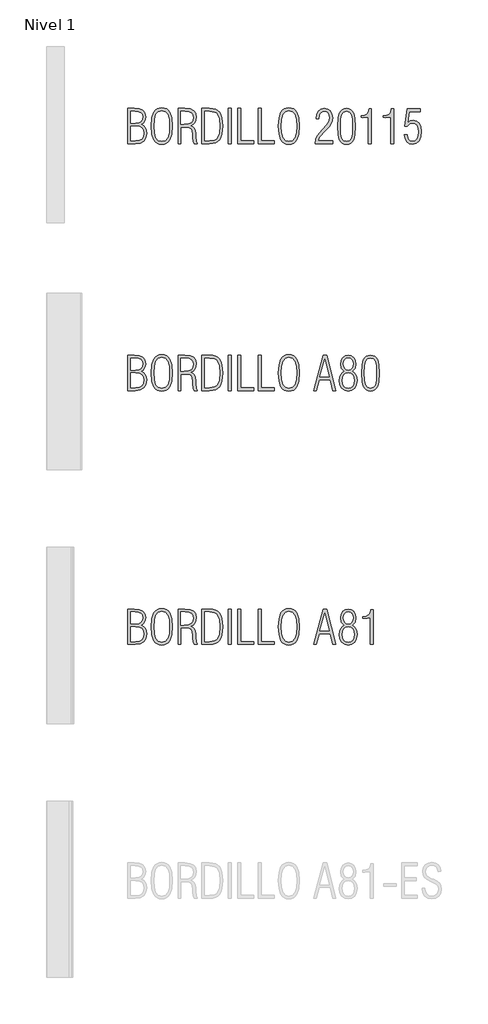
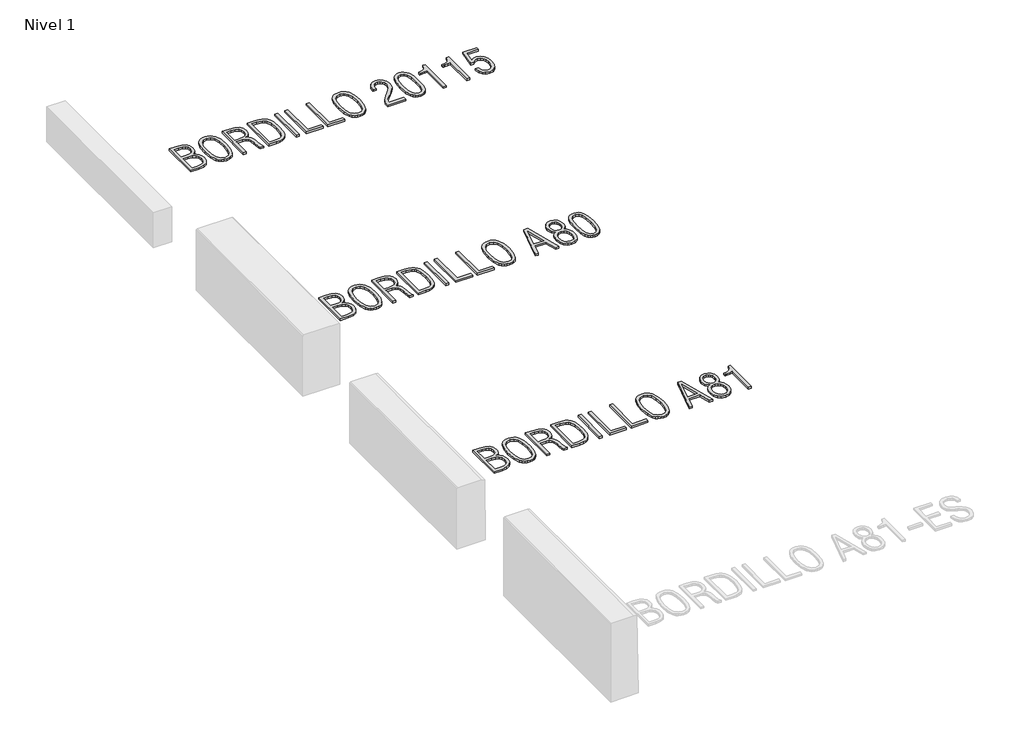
# One storey, part 2 of 2: 3 proxies.
"""IFC4 building model written with IfcOpenShell, lengths in millimetres."""

from ifc_helpers import new_model, si_unit, origin, origin_with_axes, place, context, project, spatial, polyline, outline, extrude, element, save

model = new_model("IFC4")

# Units and contexts
model_context = context("Model", 3, world=origin())
ifc_project = project(units=[si_unit("LENGTHUNIT", "METRE", prefix="MILLI")], contexts=[model_context])

# Site, building, storey
site = spatial("IfcSite", under=ifc_project)
building = spatial("IfcBuilding", under=site)
storey = spatial("IfcBuildingStorey", under=building, Name="Nivel 1", Elevation=0.0)

# Proxies
placement = place(None, origin())
element("IfcBuildingElementProxy", 1, Name="200mm", ObjectType="200mm", at=placement, inside=storey, context=model_context, shape_type="SweptSolid", body=[
    extrude(outline(polyline([(-2302.7763693, 6345.0152287), (-2302.7763693, 6545.5078512), (-2266.9524607, 6545.5078512), (-2237.2360485, 6542.7351616), (-2217.4103698, 6534.4170925), (-2206.250136, 6519.833629), (-2202.530058, 6498.264756), (-2204.1153544, 6482.992857), (-2208.8712435, 6470.7273368), (-2216.8861483, 6461.2660859), (-2228.2484917, 6454.4069948), (-2213.8355581, 6446.2026123), (-2203.8437698, 6435.5350204), (-2198.007858, 6421.9368407), (-2196.0625541, 6404.940695), (-2199.9721097, 6378.3127686), (-2211.7007765, 6359.6681674), (-2231.6022462, 6348.6784634), (-2260.0302103, 6345.0152287), (-2302.7763693, 6345.0152287)]), holes=[polyline([(-2286.6076094, 6361.1839886), (-2262.2028874, 6361.1839886), (-2239.2192479, 6363.741937), (-2223.8273464, 6371.415782), (-2215.1303221, 6384.9255388), (-2212.2313139, 6404.9912224), (-2215.1808494, 6422.9726519), (-2224.0294559, 6435.484493), (-2239.130825, 6442.8172782), (-2260.8386483, 6445.26154), (-2286.6076094, 6445.26154), (-2286.6076094, 6361.1839886)]), polyline([(-2286.6076094, 6461.4302999), (-2261.6470863, 6461.4302999), (-2242.2256267, 6463.5650814), (-2228.9306113, 6469.9694262), (-2221.2567662, 6481.0349212), (-2218.6988179, 6497.1531537), (-2221.2567662, 6512.1345203), (-2228.9306113, 6522.012622), (-2242.8698507, 6527.507474), (-2264.2239824, 6529.3390914), (-2286.6076094, 6529.3390914), (-2286.6076094, 6461.4302999)])]), origin_with_axes(), (0.0, 0.0, 1.0), 10.0),
    extrude(outline(polyline([(-2170.1925383, 6445.4636495), (-2166.573515, 6491.6898813), (-2155.7164454, 6523.7558165), (-2147.4567987, 6534.6870982), (-2137.1539512, 6542.4951565), (-2124.807903, 6547.1799915), (-2110.4186541, 6548.7416032), (-2095.9851937, 6547.1847285), (-2083.6075659, 6542.5141043), (-2073.2857707, 6534.7297306), (-2065.019808, 6523.8316075), (-2054.1627384, 6491.7846202), (-2050.5437152, 6445.4636495), (-2054.1816861, 6399.0921514), (-2065.095599, 6366.893582), (-2073.3852464, 6355.9070359), (-2083.7023047, 6348.0595031), (-2096.046774, 6343.3509833), (-2110.4186541, 6341.7814768), (-2124.7463227, 6343.3509833), (-2137.0592123, 6348.0595031), (-2147.3573229, 6355.9070359), (-2155.6406544, 6366.893582), (-2166.5545673, 6399.0921514), (-2170.1925383, 6445.4636495)]), holes=[polyline([(-2154.0237784, 6445.26154), (-2151.3521434, 6406.4944118), (-2143.3372386, 6379.3233161), (-2129.7390589, 6363.2935065), (-2110.3175993, 6357.9502366), (-2090.8771919, 6363.2619269), (-2077.3232237, 6379.1969977), (-2069.3651622, 6406.3365138), (-2066.712475, 6445.26154), (-2069.3651622, 6484.1865662), (-2077.3232237, 6511.3260823), (-2090.8771919, 6527.2611531), (-2110.3175993, 6532.5728433), (-2129.7390589, 6527.2295735), (-2143.3372386, 6511.1997639), (-2151.3521434, 6484.0286682), (-2154.0237784, 6445.26154)])]), origin_with_axes(), (0.0, 0.0, 1.0), 10.0),
    extrude(outline(polyline([(-2018.2061954, 6345.0152287), (-2018.2061954, 6545.5078512), (-1979.1485348, 6545.5078512), (-1950.2847721, 6542.5014724), (-1930.2885636, 6533.4823361), (-1918.61674, 6518.1093823), (-1914.7261322, 6496.0415515), (-1916.595645, 6478.8243486), (-1922.2041836, 6465.1693256), (-1931.6906982, 6454.8364775), (-1945.1941391, 6447.5857992), (-1933.402313, 6442.1983179), (-1925.4126719, 6434.0191991), (-1920.5052006, 6421.4568306), (-1917.9598842, 6402.9196001), (-1917.2019735, 6385.1339642), (-1914.4103361, 6359.1628936), (-1908.2586282, 6345.0152287), (-1926.8527021, 6345.0152287), (-1931.1222652, 6357.1544305), (-1933.4212608, 6381.9507396), (-1934.128644, 6395.2899665), (-1937.0023885, 6417.6230661), (-1942.8951435, 6430.558074), (-1953.2974668, 6436.7350455), (-1969.6999158, 6438.794036), (-2002.0374355, 6438.794036), (-2002.0374355, 6345.0152287), (-2018.2061954, 6345.0152287)]), holes=[polyline([(-2002.0374355, 6454.9627959), (-1984.4033818, 6454.9627959), (-1959.5565453, 6457.21758), (-1943.1225167, 6463.9819323), (-1933.9517982, 6475.9127086), (-1930.8948921, 6493.6667649), (-1933.8002161, 6509.7786815), (-1942.5161882, 6520.8252287), (-1957.6112414, 6527.2106257), (-1979.6538086, 6529.3390914), (-2002.0374355, 6529.3390914), (-2002.0374355, 6454.9627959)])]), origin_with_axes(), (0.0, 0.0, 1.0), 10.0),
    extrude(outline(polyline([(-1882.3886124, 6345.0152287), (-1882.3886124, 6545.5078512), (-1840.6024736, 6545.5078512), (-1821.5615483, 6544.1120325), (-1805.5680552, 6539.9245763), (-1792.6219945, 6532.9454827), (-1782.723366, 6523.1747517), (-1775.3953177, 6509.9397375), (-1770.1609975, 6492.5677945), (-1765.9735413, 6445.4131221), (-1770.1799452, 6398.2837134), (-1775.4379502, 6380.867559), (-1782.799157, 6367.5504378), (-1792.7214702, 6357.6912839), (-1805.6627941, 6350.649031), (-1821.6231285, 6346.4236793), (-1840.6024736, 6345.0152287), (-1882.3886124, 6345.0152287)]), holes=[polyline([(-1866.2198525, 6361.1839886), (-1841.7140758, 6361.1839886), (-1812.8882086, 6365.5103951), (-1802.5111491, 6370.9184031), (-1794.8246722, 6378.4896144), (-1785.3128939, 6403.7722495), (-1782.1423012, 6445.0089031), (-1785.3128939, 6486.5613528), (-1794.8246722, 6511.9829382), (-1802.5111491, 6519.5762552), (-1812.8882086, 6525.0000531), (-1841.7140758, 6529.3390914), (-1866.2198525, 6529.3390914), (-1866.2198525, 6361.1839886)])]), origin_with_axes(), (0.0, 0.0, 1.0), 10.0),
    extrude(outline(polyline([(-1733.6360215, 6345.0152287), (-1733.6360215, 6545.5078512), (-1717.4672617, 6545.5078512), (-1717.4672617, 6345.0152287), (-1733.6360215, 6345.0152287)])), origin_with_axes(), (0.0, 0.0, 1.0), 10.0),
    extrude(outline(polyline([(-1678.6622379, 6345.0152287), (-1678.6622379, 6545.5078512), (-1662.4934781, 6545.5078512), (-1662.4934781, 6361.1839886), (-1588.1171826, 6361.1839886), (-1588.1171826, 6345.0152287), (-1678.6622379, 6345.0152287)])), origin_with_axes(), (0.0, 0.0, 1.0), 10.0),
    extrude(outline(polyline([(-1562.2471668, 6345.0152287), (-1562.2471668, 6545.5078512), (-1546.0784069, 6545.5078512), (-1546.0784069, 6361.1839886), (-1471.7021115, 6361.1839886), (-1471.7021115, 6345.0152287), (-1562.2471668, 6345.0152287)])), origin_with_axes(), (0.0, 0.0, 1.0), 10.0),
    extrude(outline(polyline([(-1449.0658477, 6445.4636495), (-1445.4468245, 6491.6898813), (-1434.5897548, 6523.7558165), (-1426.3301081, 6534.6870982), (-1416.0272606, 6542.4951565), (-1403.6812124, 6547.1799915), (-1389.2919635, 6548.7416032), (-1374.8585031, 6547.1847285), (-1362.4808753, 6542.5141043), (-1352.1590801, 6534.7297306), (-1343.8931174, 6523.8316075), (-1333.0360478, 6491.7846202), (-1329.4170246, 6445.4636495), (-1333.0549955, 6399.0921514), (-1343.9689085, 6366.893582), (-1352.2585559, 6355.9070359), (-1362.5756142, 6348.0595031), (-1374.9200834, 6343.3509833), (-1389.2919635, 6341.7814768), (-1403.6196322, 6343.3509833), (-1415.9325218, 6348.0595031), (-1426.2306323, 6355.9070359), (-1434.5139638, 6366.893582), (-1445.4278767, 6399.0921514), (-1449.0658477, 6445.4636495)]), holes=[polyline([(-1432.8970878, 6445.26154), (-1430.2254529, 6406.4944118), (-1422.2105481, 6379.3233161), (-1408.6123684, 6363.2935065), (-1389.1909087, 6357.9502366), (-1369.7505014, 6363.2619269), (-1356.1965331, 6379.1969977), (-1348.2384716, 6406.3365138), (-1345.5857845, 6445.26154), (-1348.2384716, 6484.1865662), (-1356.1965331, 6511.3260823), (-1369.7505014, 6527.2611531), (-1389.1909087, 6532.5728433), (-1408.6123684, 6527.2295735), (-1422.2105481, 6511.1997639), (-1430.2254529, 6484.0286682), (-1432.8970878, 6445.26154)])]), origin_with_axes(), (0.0, 0.0, 1.0), 10.0),
    extrude(outline(polyline([(-1238.8719693, 6345.0152287), (-1236.3708642, 6369.6473239), (-1229.2212407, 6389.8835374), (-1199.5111444, 6423.9389879), (-1196.3279198, 6427.1727399), (-1194.6099891, 6428.8906706), (-1167.1736247, 6462.7692753), (-1160.3145336, 6478.3253908), (-1158.0281699, 6492.9593816), (-1160.0113693, 6507.9912756), (-1165.9609677, 6519.5367807), (-1175.2580046, 6526.8885137), (-1187.2835198, 6529.3390914), (-1201.1406523, 6526.7179838), (-1211.0819132, 6518.8546611), (-1217.1704619, 6505.7238596), (-1219.4694574, 6487.3003157), (-1235.6382173, 6487.1487335), (-1235.6382173, 6490.1298487), (-1232.5497315, 6513.12612), (-1223.2842742, 6530.6780668), (-1208.6881788, 6541.8004051), (-1189.607779, 6545.5078512), (-1169.8073641, 6541.9330395), (-1154.6680994, 6531.2086042), (-1145.0615824, 6514.3324611), (-1141.85941, 6492.3025258), (-1143.3752312, 6474.9969), (-1147.8216402, 6459.9144786), (-1158.3818615, 6443.6825595), (-1176.6222437, 6424.7979533), (-1181.8265633, 6419.8462706), (-1214.7198842, 6384.5528994), (-1220.631587, 6372.710546), (-1222.7032094, 6361.1839886), (-1141.3541362, 6361.1839886), (-1141.3541362, 6345.0152287), (-1238.8719693, 6345.0152287)])), origin_with_axes(), (0.0, 0.0, 1.0), 10.0),
    extrude(outline(polyline([(-1112.7556422, 6443.8467735), (-1110.507174, 6491.6204062), (-1103.5091326, 6518.7788701), (-1095.8731832, 6530.4254299), (-1086.5066711, 6538.7877104), (-1075.4222283, 6543.827816), (-1062.6324866, 6545.5078512), (-1049.8427449, 6543.8151842), (-1038.7583021, 6538.737183), (-1029.4549492, 6530.3622707), (-1022.0084774, 6518.7788701), (-1014.8335902, 6490.6351224), (-1012.509331, 6443.8467735), (-1014.7577991, 6396.1994592), (-1022.0084774, 6368.5104579), (-1029.4549492, 6356.9270573), (-1038.7583021, 6348.552145), (-1049.8427449, 6343.4741438), (-1062.6324866, 6341.7814768), (-1075.4222283, 6343.4741438), (-1086.5066711, 6348.552145), (-1095.8731832, 6356.9270573), (-1103.5091326, 6368.5104579), (-1110.507174, 6395.7447129), (-1112.7556422, 6443.8467735)]), holes=[polyline([(-1096.5868823, 6443.6951914), (-1094.6478943, 6402.8185453), (-1088.8309303, 6376.6958926), (-1078.3654479, 6362.6366506), (-1062.4809045, 6357.9502366), (-1046.760575, 6362.605071), (-1036.3835155, 6376.5695742), (-1030.604447, 6402.6606473), (-1028.6780908, 6443.6951914), (-1030.604447, 6484.6539444), (-1036.3835155, 6510.7197538), (-1046.760575, 6524.684257), (-1062.4809045, 6529.3390914), (-1078.3654479, 6524.6526774), (-1088.8309303, 6510.5934354), (-1094.6478943, 6484.4960464), (-1096.5868823, 6443.6951914)])]), origin_with_axes(), (0.0, 0.0, 1.0), 10.0),
    extrude(outline(polyline([(-938.1330355, 6345.0152287), (-938.1330355, 6496.0920789), (-953.5691485, 6494.4246755), (-969.4094804, 6493.7678196), (-975.902248, 6493.818347), (-980.1718112, 6494.1215112), (-980.1718112, 6503.4690756), (-960.5482421, 6506.3554518), (-947.0511171, 6513.1955952), (-938.6951526, 6524.8737346), (-934.4950645, 6542.2740993), (-921.9642756, 6542.2740993), (-921.9642756, 6345.0152287), (-938.1330355, 6345.0152287)])), origin_with_axes(), (0.0, 0.0, 1.0), 10.0),
    extrude(outline(polyline([(-812.0167085, 6345.0152287), (-812.0167085, 6496.0920789), (-827.4528214, 6494.4246755), (-843.2931534, 6493.7678196), (-849.785921, 6493.818347), (-854.0554841, 6494.1215112), (-854.0554841, 6503.4690756), (-834.431915, 6506.3554518), (-820.9347901, 6513.1955952), (-812.5788255, 6524.8737346), (-808.3787375, 6542.2740993), (-795.8479486, 6542.2740993), (-795.8479486, 6345.0152287), (-812.0167085, 6345.0152287)])), origin_with_axes(), (0.0, 0.0, 1.0), 10.0),
    extrude(outline(polyline([(-734.406661, 6396.7552604), (-718.2379012, 6396.7552604), (-715.016781, 6379.8096421), (-708.9913916, 6367.6767563), (-700.1491011, 6360.3818665), (-688.4772775, 6357.9502366), (-673.7864433, 6361.5882076), (-662.7588438, 6372.5021205), (-655.8618572, 6390.0603832), (-653.5628617, 6413.6314035), (-655.7608024, 6433.6907712), (-662.3546248, 6448.7984562), (-672.8137914, 6458.272339), (-686.6077647, 6461.4302999), (-704.5449826, 6457.2365278), (-716.9241894, 6445.26154), (-731.1729091, 6445.26154), (-717.8336822, 6542.2740993), (-643.8616057, 6542.2740993), (-643.8616057, 6526.1053394), (-706.8187145, 6526.1053394), (-715.0041492, 6465.3714351), (-700.4270016, 6474.6179446), (-684.637197, 6477.5990597), (-665.247317, 6473.4242354), (-650.2280549, 6460.8997624), (-640.6025901, 6441.1751386), (-637.3941018, 6415.3998616), (-640.691013, 6383.7444614), (-650.5817466, 6360.6281875), (-666.7631383, 6346.4931544), (-688.9320239, 6341.7814768), (-707.3555679, 6345.4194477), (-721.4969168, 6356.3333607), (-730.7244786, 6373.7147775), (-734.406661, 6396.7552604)])), origin_with_axes(), (0.0, 0.0, 1.0), 10.0),
])
element("IfcBuildingElementProxy", 2, Name="200mm", ObjectType="200mm", at=placement, inside=storey, context=model_context, shape_type="SweptSolid", body=[
    extrude(outline(polyline([(-2302.7763693, 4945.0152287), (-2302.7763693, 5145.5078512), (-2266.9524607, 5145.5078512), (-2237.2360485, 5142.7351616), (-2217.4103698, 5134.4170925), (-2206.250136, 5119.833629), (-2202.530058, 5098.264756), (-2204.1153544, 5082.992857), (-2208.8712435, 5070.7273368), (-2216.8861483, 5061.2660859), (-2228.2484917, 5054.4069948), (-2213.8355581, 5046.2026123), (-2203.8437698, 5035.5350204), (-2198.007858, 5021.9368407), (-2196.0625541, 5004.940695), (-2199.9721097, 4978.3127686), (-2211.7007765, 4959.6681674), (-2231.6022462, 4948.6784634), (-2260.0302103, 4945.0152287), (-2302.7763693, 4945.0152287)]), holes=[polyline([(-2286.6076094, 4961.1839886), (-2262.2028874, 4961.1839886), (-2239.2192479, 4963.741937), (-2223.8273464, 4971.415782), (-2215.1303221, 4984.9255388), (-2212.2313139, 5004.9912224), (-2215.1808494, 5022.9726519), (-2224.0294559, 5035.484493), (-2239.130825, 5042.8172782), (-2260.8386483, 5045.26154), (-2286.6076094, 5045.26154), (-2286.6076094, 4961.1839886)]), polyline([(-2286.6076094, 5061.4302999), (-2261.6470863, 5061.4302999), (-2242.2256267, 5063.5650814), (-2228.9306113, 5069.9694262), (-2221.2567662, 5081.0349212), (-2218.6988179, 5097.1531537), (-2221.2567662, 5112.1345203), (-2228.9306113, 5122.012622), (-2242.8698507, 5127.507474), (-2264.2239824, 5129.3390914), (-2286.6076094, 5129.3390914), (-2286.6076094, 5061.4302999)])]), origin_with_axes(), (0.0, 0.0, 1.0), 10.0),
    extrude(outline(polyline([(-2170.1925383, 5045.4636495), (-2166.573515, 5091.6898813), (-2155.7164454, 5123.7558165), (-2147.4567987, 5134.6870982), (-2137.1539512, 5142.4951565), (-2124.807903, 5147.1799915), (-2110.4186541, 5148.7416032), (-2095.9851937, 5147.1847285), (-2083.6075659, 5142.5141043), (-2073.2857707, 5134.7297306), (-2065.019808, 5123.8316075), (-2054.1627384, 5091.7846202), (-2050.5437152, 5045.4636495), (-2054.1816861, 4999.0921514), (-2065.095599, 4966.893582), (-2073.3852464, 4955.9070359), (-2083.7023047, 4948.0595031), (-2096.046774, 4943.3509833), (-2110.4186541, 4941.7814768), (-2124.7463227, 4943.3509833), (-2137.0592123, 4948.0595031), (-2147.3573229, 4955.9070359), (-2155.6406544, 4966.893582), (-2166.5545673, 4999.0921514), (-2170.1925383, 5045.4636495)]), holes=[polyline([(-2154.0237784, 5045.26154), (-2151.3521434, 5006.4944118), (-2143.3372386, 4979.3233161), (-2129.7390589, 4963.2935065), (-2110.3175993, 4957.9502366), (-2090.8771919, 4963.2619269), (-2077.3232237, 4979.1969977), (-2069.3651622, 5006.3365138), (-2066.712475, 5045.26154), (-2069.3651622, 5084.1865662), (-2077.3232237, 5111.3260823), (-2090.8771919, 5127.2611531), (-2110.3175993, 5132.5728433), (-2129.7390589, 5127.2295735), (-2143.3372386, 5111.1997639), (-2151.3521434, 5084.0286682), (-2154.0237784, 5045.26154)])]), origin_with_axes(), (0.0, 0.0, 1.0), 10.0),
    extrude(outline(polyline([(-2018.2061954, 4945.0152287), (-2018.2061954, 5145.5078512), (-1979.1485348, 5145.5078512), (-1950.2847721, 5142.5014724), (-1930.2885636, 5133.4823361), (-1918.61674, 5118.1093823), (-1914.7261322, 5096.0415515), (-1916.595645, 5078.8243486), (-1922.2041836, 5065.1693256), (-1931.6906982, 5054.8364775), (-1945.1941391, 5047.5857992), (-1933.402313, 5042.1983179), (-1925.4126719, 5034.0191991), (-1920.5052006, 5021.4568306), (-1917.9598842, 5002.9196001), (-1917.2019735, 4985.1339642), (-1914.4103361, 4959.1628936), (-1908.2586282, 4945.0152287), (-1926.8527021, 4945.0152287), (-1931.1222652, 4957.1544305), (-1933.4212608, 4981.9507396), (-1934.128644, 4995.2899665), (-1937.0023885, 5017.6230661), (-1942.8951435, 5030.558074), (-1953.2974668, 5036.7350455), (-1969.6999158, 5038.794036), (-2002.0374355, 5038.794036), (-2002.0374355, 4945.0152287), (-2018.2061954, 4945.0152287)]), holes=[polyline([(-2002.0374355, 5054.9627959), (-1984.4033818, 5054.9627959), (-1959.5565453, 5057.21758), (-1943.1225167, 5063.9819323), (-1933.9517982, 5075.9127086), (-1930.8948921, 5093.6667649), (-1933.8002161, 5109.7786815), (-1942.5161882, 5120.8252287), (-1957.6112414, 5127.2106257), (-1979.6538086, 5129.3390914), (-2002.0374355, 5129.3390914), (-2002.0374355, 5054.9627959)])]), origin_with_axes(), (0.0, 0.0, 1.0), 10.0),
    extrude(outline(polyline([(-1882.3886124, 4945.0152287), (-1882.3886124, 5145.5078512), (-1840.6024736, 5145.5078512), (-1821.5615483, 5144.1120325), (-1805.5680552, 5139.9245763), (-1792.6219945, 5132.9454827), (-1782.723366, 5123.1747517), (-1775.3953177, 5109.9397375), (-1770.1609975, 5092.5677945), (-1765.9735413, 5045.4131221), (-1770.1799452, 4998.2837134), (-1775.4379502, 4980.867559), (-1782.799157, 4967.5504378), (-1792.7214702, 4957.6912839), (-1805.6627941, 4950.649031), (-1821.6231285, 4946.4236793), (-1840.6024736, 4945.0152287), (-1882.3886124, 4945.0152287)]), holes=[polyline([(-1866.2198525, 4961.1839886), (-1841.7140758, 4961.1839886), (-1812.8882086, 4965.5103951), (-1802.5111491, 4970.9184031), (-1794.8246722, 4978.4896144), (-1785.3128939, 5003.7722495), (-1782.1423012, 5045.0089031), (-1785.3128939, 5086.5613528), (-1794.8246722, 5111.9829382), (-1802.5111491, 5119.5762552), (-1812.8882086, 5125.0000531), (-1841.7140758, 5129.3390914), (-1866.2198525, 5129.3390914), (-1866.2198525, 4961.1839886)])]), origin_with_axes(), (0.0, 0.0, 1.0), 10.0),
    extrude(outline(polyline([(-1733.6360215, 4945.0152287), (-1733.6360215, 5145.5078512), (-1717.4672617, 5145.5078512), (-1717.4672617, 4945.0152287), (-1733.6360215, 4945.0152287)])), origin_with_axes(), (0.0, 0.0, 1.0), 10.0),
    extrude(outline(polyline([(-1678.6622379, 4945.0152287), (-1678.6622379, 5145.5078512), (-1662.4934781, 5145.5078512), (-1662.4934781, 4961.1839886), (-1588.1171826, 4961.1839886), (-1588.1171826, 4945.0152287), (-1678.6622379, 4945.0152287)])), origin_with_axes(), (0.0, 0.0, 1.0), 10.0),
    extrude(outline(polyline([(-1562.2471668, 4945.0152287), (-1562.2471668, 5145.5078512), (-1546.0784069, 5145.5078512), (-1546.0784069, 4961.1839886), (-1471.7021115, 4961.1839886), (-1471.7021115, 4945.0152287), (-1562.2471668, 4945.0152287)])), origin_with_axes(), (0.0, 0.0, 1.0), 10.0),
    extrude(outline(polyline([(-1449.0658477, 5045.4636495), (-1445.4468245, 5091.6898813), (-1434.5897548, 5123.7558165), (-1426.3301081, 5134.6870982), (-1416.0272606, 5142.4951565), (-1403.6812124, 5147.1799915), (-1389.2919635, 5148.7416032), (-1374.8585031, 5147.1847285), (-1362.4808753, 5142.5141043), (-1352.1590801, 5134.7297306), (-1343.8931174, 5123.8316075), (-1333.0360478, 5091.7846202), (-1329.4170246, 5045.4636495), (-1333.0549955, 4999.0921514), (-1343.9689085, 4966.893582), (-1352.2585559, 4955.9070359), (-1362.5756142, 4948.0595031), (-1374.9200834, 4943.3509833), (-1389.2919635, 4941.7814768), (-1403.6196322, 4943.3509833), (-1415.9325218, 4948.0595031), (-1426.2306323, 4955.9070359), (-1434.5139638, 4966.893582), (-1445.4278767, 4999.0921514), (-1449.0658477, 5045.4636495)]), holes=[polyline([(-1432.8970878, 5045.26154), (-1430.2254529, 5006.4944118), (-1422.2105481, 4979.3233161), (-1408.6123684, 4963.2935065), (-1389.1909087, 4957.9502366), (-1369.7505014, 4963.2619269), (-1356.1965331, 4979.1969977), (-1348.2384716, 5006.3365138), (-1345.5857845, 5045.26154), (-1348.2384716, 5084.1865662), (-1356.1965331, 5111.3260823), (-1369.7505014, 5127.2611531), (-1389.1909087, 5132.5728433), (-1408.6123684, 5127.2295735), (-1422.2105481, 5111.1997639), (-1430.2254529, 5084.0286682), (-1432.8970878, 5045.26154)])]), origin_with_axes(), (0.0, 0.0, 1.0), 10.0),
    extrude(outline(polyline([(-1248.5732252, 4945.0152287), (-1195.0142081, 5145.5078512), (-1175.4601141, 5145.5078512), (-1122.4568981, 4945.0152287), (-1139.2825139, 4945.0152287), (-1156.0576023, 5006.4565163), (-1215.9830686, 5006.4565163), (-1233.0613212, 4945.0152287), (-1248.5732252, 4945.0152287)]), holes=[polyline([(-1213.1535356, 5022.6252762), (-1159.4429364, 5022.6252762), (-1186.1719175, 5123.3263338), (-1213.1535356, 5022.6252762)])]), origin_with_axes(), (0.0, 0.0, 1.0), 10.0),
    extrude(outline(polyline([(-1076.0222409, 5053.8006663), (-1091.4330901, 5070.8789189), (-1096.5868823, 5095.3341682), (-1093.6752424, 5116.2903969), (-1084.9403225, 5132.1686243), (-1071.1147696, 5142.1730445), (-1052.9312307, 5145.5078512), (-1034.6529529, 5142.1730445), (-1020.8463478, 5132.1686243), (-1012.1682712, 5116.2903969), (-1009.275579, 5095.3341682), (-1014.3283164, 5071.1315558), (-1029.9918026, 5053.8006663), (-1018.1305014, 5046.0131347), (-1009.6292706, 5034.7771098), (-1004.5133739, 5020.2062781), (-1002.808075, 5002.4143263), (-1006.0734066, 4976.8348429), (-1015.8694014, 4957.6975998), (-1031.6276263, 4945.7605075), (-1052.7796485, 4941.7814768), (-1073.906407, 4945.7605075), (-1089.7909504, 4957.6975998), (-1099.7385273, 4976.8348429), (-1103.0543863, 5002.4143263), (-1101.3554033, 5020.2062781), (-1096.2584544, 5034.7771098), (-1087.8014351, 5046.0131347), (-1076.0222409, 5053.8006663)]), holes=[polyline([(-1025.4443389, 5096.0415515), (-1027.2380607, 5110.0881616), (-1032.6192261, 5120.5978555), (-1041.272039, 5127.1537824), (-1052.8807033, 5129.3390914), (-1064.4072606, 5127.1348346), (-1073.1169168, 5120.5220645), (-1078.592821, 5109.9934228), (-1080.4181224, 5096.0415515), (-1078.592821, 5081.5465109), (-1073.1169168, 5070.6010184), (-1064.4072606, 5063.7229795), (-1052.8807033, 5061.4302999), (-1041.3351982, 5063.7103476), (-1032.6697534, 5070.550491), (-1027.2506925, 5081.4833517), (-1025.4443389, 5096.0415515)]), polyline([(-1018.9768349, 5002.2627442), (-1021.2947782, 5019.8589024), (-1028.2486081, 5033.5391891), (-1039.0172549, 5042.3309523), (-1052.7796485, 5045.26154), (-1066.6746765, 5042.3499), (-1077.5380621, 5033.6149801), (-1084.5487353, 5020.0168004), (-1086.8856264, 5002.5153811), (-1084.6497901, 4984.0602575), (-1077.9422811, 4969.9252244), (-1067.4578509, 4960.9439836), (-1053.8912508, 4957.9502366), (-1039.1372574, 4960.8492448), (-1028.1222897, 4969.5462691), (-1021.2631986, 4983.5234041), (-1018.9768349, 5002.2627442)])]), origin_with_axes(), (0.0, 0.0, 1.0), 10.0),
    extrude(outline(polyline([(-976.9380592, 5043.8467735), (-974.6895911, 5091.6204062), (-967.6915497, 5118.7788701), (-960.0556002, 5130.4254299), (-950.6890881, 5138.7877104), (-939.6046453, 5143.827816), (-926.8149036, 5145.5078512), (-914.0251619, 5143.8151842), (-902.9407191, 5138.737183), (-893.6373662, 5130.3622707), (-886.1908944, 5118.7788701), (-879.0160072, 5090.6351224), (-876.691748, 5043.8467735), (-878.9402161, 4996.1994592), (-886.1908944, 4968.5104579), (-893.6373662, 4956.9270573), (-902.9407191, 4948.552145), (-914.0251619, 4943.4741438), (-926.8149036, 4941.7814768), (-939.6046453, 4943.4741438), (-950.6890881, 4948.552145), (-960.0556002, 4956.9270573), (-967.6915497, 4968.5104579), (-974.6895911, 4995.7447129), (-976.9380592, 5043.8467735)]), holes=[polyline([(-960.7692993, 5043.6951914), (-958.8303113, 5002.8185453), (-953.0133473, 4976.6958926), (-942.5478649, 4962.6366506), (-926.6633215, 4957.9502366), (-910.942992, 4962.605071), (-900.5659325, 4976.5695742), (-894.786864, 5002.6606473), (-892.8605079, 5043.6951914), (-894.786864, 5084.6539444), (-900.5659325, 5110.7197538), (-910.942992, 5124.684257), (-926.6633215, 5129.3390914), (-942.5478649, 5124.6526774), (-953.0133473, 5110.5934354), (-958.8303113, 5084.4960464), (-960.7692993, 5043.6951914)])]), origin_with_axes(), (0.0, 0.0, 1.0), 10.0),
])
element("IfcBuildingElementProxy", 3, Name="200mm", ObjectType="200mm", at=placement, inside=storey, context=model_context, shape_type="SweptSolid", body=[
    extrude(outline(polyline([(-2302.7763693, 3505.0152287), (-2302.7763693, 3705.5078512), (-2266.9524607, 3705.5078512), (-2237.2360485, 3702.7351616), (-2217.4103698, 3694.4170925), (-2206.250136, 3679.833629), (-2202.530058, 3658.264756), (-2204.1153544, 3642.992857), (-2208.8712435, 3630.7273368), (-2216.8861483, 3621.2660859), (-2228.2484917, 3614.4069948), (-2213.8355581, 3606.2026123), (-2203.8437698, 3595.5350204), (-2198.007858, 3581.9368407), (-2196.0625541, 3564.940695), (-2199.9721097, 3538.3127686), (-2211.7007765, 3519.6681674), (-2231.6022462, 3508.6784634), (-2260.0302103, 3505.0152287), (-2302.7763693, 3505.0152287)]), holes=[polyline([(-2286.6076094, 3521.1839886), (-2262.2028874, 3521.1839886), (-2239.2192479, 3523.741937), (-2223.8273464, 3531.415782), (-2215.1303221, 3544.9255388), (-2212.2313139, 3564.9912224), (-2215.1808494, 3582.9726519), (-2224.0294559, 3595.484493), (-2239.130825, 3602.8172782), (-2260.8386483, 3605.26154), (-2286.6076094, 3605.26154), (-2286.6076094, 3521.1839886)]), polyline([(-2286.6076094, 3621.4302999), (-2261.6470863, 3621.4302999), (-2242.2256267, 3623.5650814), (-2228.9306113, 3629.9694262), (-2221.2567662, 3641.0349212), (-2218.6988179, 3657.1531537), (-2221.2567662, 3672.1345203), (-2228.9306113, 3682.012622), (-2242.8698507, 3687.507474), (-2264.2239824, 3689.3390914), (-2286.6076094, 3689.3390914), (-2286.6076094, 3621.4302999)])]), origin_with_axes(), (0.0, 0.0, 1.0), 10.0),
    extrude(outline(polyline([(-2170.1925383, 3605.4636495), (-2166.573515, 3651.6898813), (-2155.7164454, 3683.7558165), (-2147.4567987, 3694.6870982), (-2137.1539512, 3702.4951565), (-2124.807903, 3707.1799915), (-2110.4186541, 3708.7416032), (-2095.9851937, 3707.1847285), (-2083.6075659, 3702.5141043), (-2073.2857707, 3694.7297306), (-2065.019808, 3683.8316075), (-2054.1627384, 3651.7846202), (-2050.5437152, 3605.4636495), (-2054.1816861, 3559.0921514), (-2065.095599, 3526.893582), (-2073.3852464, 3515.9070359), (-2083.7023047, 3508.0595031), (-2096.046774, 3503.3509833), (-2110.4186541, 3501.7814768), (-2124.7463227, 3503.3509833), (-2137.0592123, 3508.0595031), (-2147.3573229, 3515.9070359), (-2155.6406544, 3526.893582), (-2166.5545673, 3559.0921514), (-2170.1925383, 3605.4636495)]), holes=[polyline([(-2154.0237784, 3605.26154), (-2151.3521434, 3566.4944118), (-2143.3372386, 3539.3233161), (-2129.7390589, 3523.2935065), (-2110.3175993, 3517.9502366), (-2090.8771919, 3523.2619269), (-2077.3232237, 3539.1969977), (-2069.3651622, 3566.3365138), (-2066.712475, 3605.26154), (-2069.3651622, 3644.1865662), (-2077.3232237, 3671.3260823), (-2090.8771919, 3687.2611531), (-2110.3175993, 3692.5728433), (-2129.7390589, 3687.2295735), (-2143.3372386, 3671.1997639), (-2151.3521434, 3644.0286682), (-2154.0237784, 3605.26154)])]), origin_with_axes(), (0.0, 0.0, 1.0), 10.0),
    extrude(outline(polyline([(-2018.2061954, 3505.0152287), (-2018.2061954, 3705.5078512), (-1979.1485348, 3705.5078512), (-1950.2847721, 3702.5014724), (-1930.2885636, 3693.4823361), (-1918.61674, 3678.1093823), (-1914.7261322, 3656.0415515), (-1916.595645, 3638.8243486), (-1922.2041836, 3625.1693256), (-1931.6906982, 3614.8364775), (-1945.1941391, 3607.5857992), (-1933.402313, 3602.1983179), (-1925.4126719, 3594.0191991), (-1920.5052006, 3581.4568306), (-1917.9598842, 3562.9196001), (-1917.2019735, 3545.1339642), (-1914.4103361, 3519.1628936), (-1908.2586282, 3505.0152287), (-1926.8527021, 3505.0152287), (-1931.1222652, 3517.1544305), (-1933.4212608, 3541.9507396), (-1934.128644, 3555.2899665), (-1937.0023885, 3577.6230661), (-1942.8951435, 3590.558074), (-1953.2974668, 3596.7350455), (-1969.6999158, 3598.794036), (-2002.0374355, 3598.794036), (-2002.0374355, 3505.0152287), (-2018.2061954, 3505.0152287)]), holes=[polyline([(-2002.0374355, 3614.9627959), (-1984.4033818, 3614.9627959), (-1959.5565453, 3617.21758), (-1943.1225167, 3623.9819323), (-1933.9517982, 3635.9127086), (-1930.8948921, 3653.6667649), (-1933.8002161, 3669.7786815), (-1942.5161882, 3680.8252287), (-1957.6112414, 3687.2106257), (-1979.6538086, 3689.3390914), (-2002.0374355, 3689.3390914), (-2002.0374355, 3614.9627959)])]), origin_with_axes(), (0.0, 0.0, 1.0), 10.0),
    extrude(outline(polyline([(-1882.3886124, 3505.0152287), (-1882.3886124, 3705.5078512), (-1840.6024736, 3705.5078512), (-1821.5615483, 3704.1120325), (-1805.5680552, 3699.9245763), (-1792.6219945, 3692.9454827), (-1782.723366, 3683.1747517), (-1775.3953177, 3669.9397375), (-1770.1609975, 3652.5677945), (-1765.9735413, 3605.4131221), (-1770.1799452, 3558.2837134), (-1775.4379502, 3540.867559), (-1782.799157, 3527.5504378), (-1792.7214702, 3517.6912839), (-1805.6627941, 3510.649031), (-1821.6231285, 3506.4236793), (-1840.6024736, 3505.0152287), (-1882.3886124, 3505.0152287)]), holes=[polyline([(-1866.2198525, 3521.1839886), (-1841.7140758, 3521.1839886), (-1812.8882086, 3525.5103951), (-1802.5111491, 3530.9184031), (-1794.8246722, 3538.4896144), (-1785.3128939, 3563.7722495), (-1782.1423012, 3605.0089031), (-1785.3128939, 3646.5613528), (-1794.8246722, 3671.9829382), (-1802.5111491, 3679.5762552), (-1812.8882086, 3685.0000531), (-1841.7140758, 3689.3390914), (-1866.2198525, 3689.3390914), (-1866.2198525, 3521.1839886)])]), origin_with_axes(), (0.0, 0.0, 1.0), 10.0),
    extrude(outline(polyline([(-1733.6360215, 3505.0152287), (-1733.6360215, 3705.5078512), (-1717.4672617, 3705.5078512), (-1717.4672617, 3505.0152287), (-1733.6360215, 3505.0152287)])), origin_with_axes(), (0.0, 0.0, 1.0), 10.0),
    extrude(outline(polyline([(-1678.6622379, 3505.0152287), (-1678.6622379, 3705.5078512), (-1662.4934781, 3705.5078512), (-1662.4934781, 3521.1839886), (-1588.1171826, 3521.1839886), (-1588.1171826, 3505.0152287), (-1678.6622379, 3505.0152287)])), origin_with_axes(), (0.0, 0.0, 1.0), 10.0),
    extrude(outline(polyline([(-1562.2471668, 3505.0152287), (-1562.2471668, 3705.5078512), (-1546.0784069, 3705.5078512), (-1546.0784069, 3521.1839886), (-1471.7021115, 3521.1839886), (-1471.7021115, 3505.0152287), (-1562.2471668, 3505.0152287)])), origin_with_axes(), (0.0, 0.0, 1.0), 10.0),
    extrude(outline(polyline([(-1449.0658477, 3605.4636495), (-1445.4468245, 3651.6898813), (-1434.5897548, 3683.7558165), (-1426.3301081, 3694.6870982), (-1416.0272606, 3702.4951565), (-1403.6812124, 3707.1799915), (-1389.2919635, 3708.7416032), (-1374.8585031, 3707.1847285), (-1362.4808753, 3702.5141043), (-1352.1590801, 3694.7297306), (-1343.8931174, 3683.8316075), (-1333.0360478, 3651.7846202), (-1329.4170246, 3605.4636495), (-1333.0549955, 3559.0921514), (-1343.9689085, 3526.893582), (-1352.2585559, 3515.9070359), (-1362.5756142, 3508.0595031), (-1374.9200834, 3503.3509833), (-1389.2919635, 3501.7814768), (-1403.6196322, 3503.3509833), (-1415.9325218, 3508.0595031), (-1426.2306323, 3515.9070359), (-1434.5139638, 3526.893582), (-1445.4278767, 3559.0921514), (-1449.0658477, 3605.4636495)]), holes=[polyline([(-1432.8970878, 3605.26154), (-1430.2254529, 3566.4944118), (-1422.2105481, 3539.3233161), (-1408.6123684, 3523.2935065), (-1389.1909087, 3517.9502366), (-1369.7505014, 3523.2619269), (-1356.1965331, 3539.1969977), (-1348.2384716, 3566.3365138), (-1345.5857845, 3605.26154), (-1348.2384716, 3644.1865662), (-1356.1965331, 3671.3260823), (-1369.7505014, 3687.2611531), (-1389.1909087, 3692.5728433), (-1408.6123684, 3687.2295735), (-1422.2105481, 3671.1997639), (-1430.2254529, 3644.0286682), (-1432.8970878, 3605.26154)])]), origin_with_axes(), (0.0, 0.0, 1.0), 10.0),
    extrude(outline(polyline([(-1248.5732252, 3505.0152287), (-1195.0142081, 3705.5078512), (-1175.4601141, 3705.5078512), (-1122.4568981, 3505.0152287), (-1139.2825139, 3505.0152287), (-1156.0576023, 3566.4565163), (-1215.9830686, 3566.4565163), (-1233.0613212, 3505.0152287), (-1248.5732252, 3505.0152287)]), holes=[polyline([(-1213.1535356, 3582.6252762), (-1159.4429364, 3582.6252762), (-1186.1719175, 3683.3263338), (-1213.1535356, 3582.6252762)])]), origin_with_axes(), (0.0, 0.0, 1.0), 10.0),
    extrude(outline(polyline([(-1076.0222409, 3613.8006663), (-1091.4330901, 3630.8789189), (-1096.5868823, 3655.3341682), (-1093.6752424, 3676.2903969), (-1084.9403225, 3692.1686243), (-1071.1147696, 3702.1730445), (-1052.9312307, 3705.5078512), (-1034.6529529, 3702.1730445), (-1020.8463478, 3692.1686243), (-1012.1682712, 3676.2903969), (-1009.275579, 3655.3341682), (-1014.3283164, 3631.1315558), (-1029.9918026, 3613.8006663), (-1018.1305014, 3606.0131347), (-1009.6292706, 3594.7771098), (-1004.5133739, 3580.2062781), (-1002.808075, 3562.4143263), (-1006.0734066, 3536.8348429), (-1015.8694014, 3517.6975998), (-1031.6276263, 3505.7605075), (-1052.7796485, 3501.7814768), (-1073.906407, 3505.7605075), (-1089.7909504, 3517.6975998), (-1099.7385273, 3536.8348429), (-1103.0543863, 3562.4143263), (-1101.3554033, 3580.2062781), (-1096.2584544, 3594.7771098), (-1087.8014351, 3606.0131347), (-1076.0222409, 3613.8006663)]), holes=[polyline([(-1025.4443389, 3656.0415515), (-1027.2380607, 3670.0881616), (-1032.6192261, 3680.5978555), (-1041.272039, 3687.1537824), (-1052.8807033, 3689.3390914), (-1064.4072606, 3687.1348346), (-1073.1169168, 3680.5220645), (-1078.592821, 3669.9934228), (-1080.4181224, 3656.0415515), (-1078.592821, 3641.5465109), (-1073.1169168, 3630.6010184), (-1064.4072606, 3623.7229795), (-1052.8807033, 3621.4302999), (-1041.3351982, 3623.7103476), (-1032.6697534, 3630.550491), (-1027.2506925, 3641.4833517), (-1025.4443389, 3656.0415515)]), polyline([(-1018.9768349, 3562.2627442), (-1021.2947782, 3579.8589024), (-1028.2486081, 3593.5391891), (-1039.0172549, 3602.3309523), (-1052.7796485, 3605.26154), (-1066.6746765, 3602.3499), (-1077.5380621, 3593.6149801), (-1084.5487353, 3580.0168004), (-1086.8856264, 3562.5153811), (-1084.6497901, 3544.0602575), (-1077.9422811, 3529.9252244), (-1067.4578509, 3520.9439836), (-1053.8912508, 3517.9502366), (-1039.1372574, 3520.8492448), (-1028.1222897, 3529.5462691), (-1021.2631986, 3543.5234041), (-1018.9768349, 3562.2627442)])]), origin_with_axes(), (0.0, 0.0, 1.0), 10.0),
    extrude(outline(polyline([(-928.4317796, 3505.0152287), (-928.4317796, 3656.0920789), (-943.8678925, 3654.4246755), (-959.7082245, 3653.7678196), (-966.2009921, 3653.818347), (-970.4705553, 3654.1215112), (-970.4705553, 3663.4690756), (-950.8469862, 3666.3554518), (-937.3498612, 3673.1955952), (-928.9938966, 3684.8737346), (-924.7938086, 3702.2740993), (-912.2630197, 3702.2740993), (-912.2630197, 3505.0152287), (-928.4317796, 3505.0152287)])), origin_with_axes(), (0.0, 0.0, 1.0), 10.0),
])

save(model, "model.ifc")
